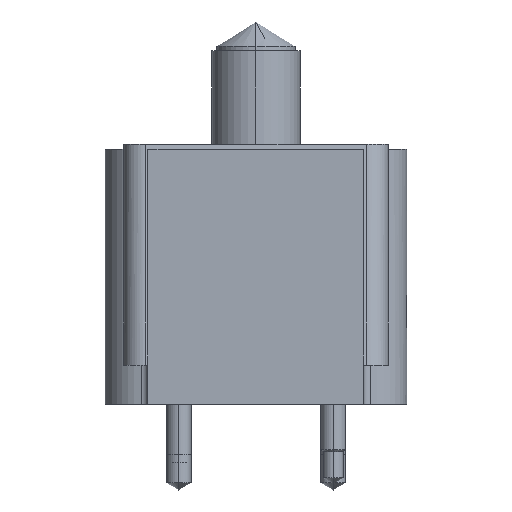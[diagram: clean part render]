
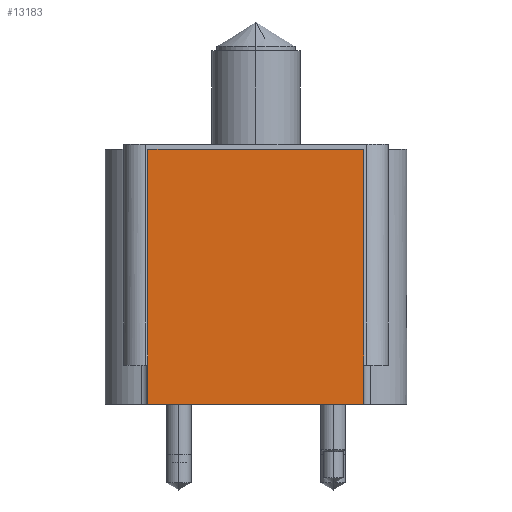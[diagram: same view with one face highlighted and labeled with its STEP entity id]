
A CAD part, left-side view. The second image highlights one B-rep face of the part: STEP entity #13183.
In plain terms, the highlighted planar face has unit normal (-1, 0, 0).
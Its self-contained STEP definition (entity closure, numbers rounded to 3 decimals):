
#13002=CARTESIAN_POINT('',(-84.201,34.988,82.55));
#13003=VERTEX_POINT('',#13002);
#13010=CARTESIAN_POINT('',(-84.201,-34.988,82.55));
#13011=VERTEX_POINT('',#13010);
#13012=CARTESIAN_POINT('',(-84.201,0.0,82.55));
#13013=DIRECTION('',(0.0,1.0,0.0));
#13014=VECTOR('',#13013,1.0);
#13015=LINE('',#13012,#13014);
#13016=EDGE_CURVE('',#13011,#13003,#13015,.T.);
#13153=CARTESIAN_POINT('',(-84.201,34.988,0.0));
#13154=VERTEX_POINT('',#13153);
#13155=CARTESIAN_POINT('',(-84.201,34.988,0.0));
#13156=DIRECTION('',(0.0,0.0,1.0));
#13157=VECTOR('',#13156,1.0);
#13158=LINE('',#13155,#13157);
#13159=EDGE_CURVE('',#13154,#13003,#13158,.T.);
#13160=ORIENTED_EDGE('',*,*,#13159,.F.);
#13161=CARTESIAN_POINT('',(-84.201,-34.988,0.0));
#13162=VERTEX_POINT('',#13161);
#13163=CARTESIAN_POINT('',(-84.201,0.0,0.0));
#13164=DIRECTION('',(0.0,-1.0,0.0));
#13165=VECTOR('',#13164,1.0);
#13166=LINE('',#13163,#13165);
#13167=EDGE_CURVE('',#13154,#13162,#13166,.T.);
#13168=ORIENTED_EDGE('',*,*,#13167,.T.);
#13169=CARTESIAN_POINT('',(-84.201,-34.988,0.0));
#13170=DIRECTION('',(0.0,0.0,-1.0));
#13171=VECTOR('',#13170,1.0);
#13172=LINE('',#13169,#13171);
#13173=EDGE_CURVE('',#13011,#13162,#13172,.T.);
#13174=ORIENTED_EDGE('',*,*,#13173,.F.);
#13175=ORIENTED_EDGE('',*,*,#13016,.T.);
#13176=EDGE_LOOP('',(#13160,#13168,#13174,#13175));
#13177=FACE_OUTER_BOUND('',#13176,.T.);
#13178=CARTESIAN_POINT('',(-84.201,0.0,0.0));
#13179=DIRECTION('',(-1.0,0.0,-0.0));
#13180=DIRECTION('',(-0.0,0.0,1.0));
#13181=AXIS2_PLACEMENT_3D('',#13178,#13179,#13180);
#13182=PLANE('',#13181);
#13183=ADVANCED_FACE('',(#13177),#13182,.T.);
